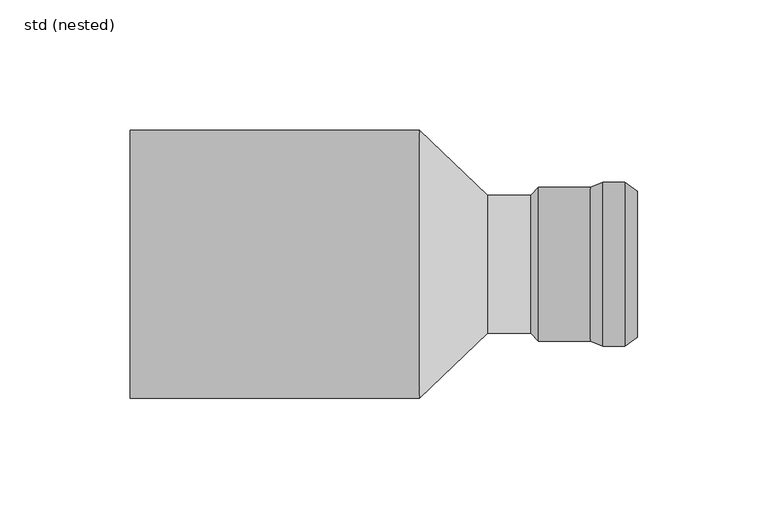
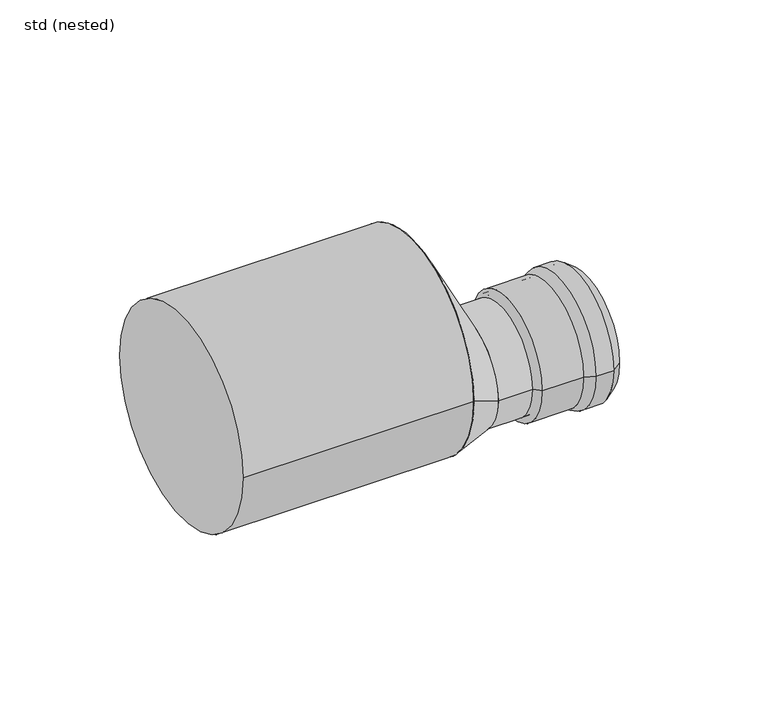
"""IFC4 building model written with IfcOpenShell, lengths in millimetres: pipe fitting geometry, ZZZ_do not use_PIF_ST_UN_GM-X transition element_ACO : std (nested)."""

from ifc_helpers import new_model, si_unit, point, frame, frame_2d, origin, origin_2d, place, context, project, spatial, polyline, circle_curve, trimmed, segment, composite_curve, outline, extrude, source, transform, mapped, element, save
from ifc_brep_helpers import plane_surface, cylinder_surface, revolved_surface, spline_surface, advanced_brep


def std_nested_7094c661(model_context):
    return source(origin(), model_context, "Body", "SolidModel", [
        advanced_brep(
        [(103.3, -31.5, -24.14), (103.3, 31.5, -24.14), (111.7, 31.5, -24.14), (111.7, -31.5, -24.14), (98.5, -29.5, -24.14), (98.5, 29.5, -24.14), (116.5, 28.0, -24.14), (116.5, -28.0, -24.14), (78.5, -29.5, -24.14), (78.5, 29.5, -24.14), (75.5, -26.5, -24.14), (75.5, 26.5, -24.14), (78.5, -26.5, -24.14), (78.5, 26.5, -24.14), (98.8, -28.0, -24.14), (98.8, 28.0, -24.14), (78.5, 28.0, -24.14), (78.5, -28.0, -24.14), (103.6, -30.0, -24.14), (103.6, 30.0, -24.14), (111.2111977, -30.0, -24.14), (111.2111977, 30.0, -24.14), (115.6162418, -26.7879887, -24.14), (115.6162418, 26.7879887, -24.14)],
        [
            (0, 1, circle_curve(frame((103.3, 0.0, -24.14), z_axis=(1.0, 0.0, 0.0), x_axis=(0.0, 1.0, 0.0)), 31.5)),
            (1, 2),
            (2, 3, circle_curve(frame((111.7, 0.0, -24.14), z_axis=(-1.0, 0.0, 0.0), x_axis=(0.0, 1.0, 0.0)), 31.5)),
            (3, 0),
            (1, 0, circle_curve(frame((103.3, 0.0, -24.14), z_axis=(1.0, 0.0, 0.0), x_axis=(0.0, 1.0, 0.0)), 31.5)),
            (3, 2, circle_curve(frame((111.7, 0.0, -24.14), z_axis=(-1.0, 0.0, 0.0), x_axis=(0.0, 1.0, 0.0)), 31.5)),
            (4, 5, circle_curve(frame((98.5, 0.0, -24.14), z_axis=(1.0, 0.0, 0.0), x_axis=(0.0, 1.0, 0.0)), 29.5)),
            (5, 1),
            (0, 4),
            (5, 4, circle_curve(frame((98.5, 0.0, -24.14), z_axis=(1.0, 0.0, 0.0), x_axis=(0.0, 1.0, 0.0)), 29.5)),
            (2, 6),
            (6, 7, circle_curve(frame((116.5, 0.0, -24.14), z_axis=(-1.0, 0.0, 0.0), x_axis=(0.0, 1.0, 0.0)), 28.0)),
            (7, 3),
            (7, 6, circle_curve(frame((116.5, 0.0, -24.14), z_axis=(-1.0, 0.0, 0.0), x_axis=(0.0, 1.0, 0.0)), 28.0)),
            (8, 9, circle_curve(frame((78.5, 0.0, -24.14), z_axis=(1.0, 0.0, 0.0), x_axis=(0.0, 1.0, 0.0)), 29.5)),
            (9, 5),
            (4, 8),
            (9, 8, circle_curve(frame((78.5, 0.0, -24.14), z_axis=(1.0, 0.0, 0.0), x_axis=(0.0, 1.0, 0.0)), 29.5)),
            (10, 11, circle_curve(frame((75.5, 0.0, -24.14), z_axis=(1.0, 0.0, 0.0), x_axis=(0.0, 1.0, 0.0)), 26.5)),
            (11, 9),
            (8, 10),
            (11, 10, circle_curve(frame((75.5, 0.0, -24.14), z_axis=(1.0, 0.0, 0.0), x_axis=(0.0, 1.0, 0.0)), 26.5)),
            (12, 13, circle_curve(frame((78.5, 0.0, -24.14), z_axis=(1.0, 0.0, 0.0), x_axis=(0.0, 1.0, 0.0)), 26.5)),
            (13, 11),
            (10, 12),
            (13, 12, circle_curve(frame((78.5, 0.0, -24.14), z_axis=(1.0, 0.0, 0.0), x_axis=(0.0, 1.0, 0.0)), 26.5)),
            (14, 15, circle_curve(frame((98.8, 0.0, -24.14), z_axis=(1.0, 0.0, 0.0), x_axis=(0.0, 1.0, 0.0)), 28.0)),
            (15, 16),
            (16, 17, circle_curve(frame((78.5, 0.0, -24.14), z_axis=(-1.0, 0.0, 0.0), x_axis=(0.0, 1.0, 0.0)), 28.0)),
            (17, 14),
            (15, 14, circle_curve(frame((98.8, 0.0, -24.14), z_axis=(1.0, 0.0, 0.0), x_axis=(0.0, 1.0, 0.0)), 28.0)),
            (17, 16, circle_curve(frame((78.5, 0.0, -24.14), z_axis=(-1.0, 0.0, 0.0), x_axis=(0.0, 1.0, 0.0)), 28.0)),
            (18, 19, circle_curve(frame((103.6, 0.0, -24.14), z_axis=(1.0, 0.0, 0.0), x_axis=(0.0, 1.0, 0.0)), 30.0)),
            (19, 15),
            (14, 18),
            (19, 18, circle_curve(frame((103.6, 0.0, -24.14), z_axis=(1.0, 0.0, 0.0), x_axis=(0.0, 1.0, 0.0)), 30.0)),
            (20, 21, circle_curve(frame((111.2111977, 0.0, -24.14), z_axis=(1.0, 0.0, 0.0), x_axis=(0.0, 1.0, 0.0)), 30.0)),
            (21, 19),
            (18, 20),
            (21, 20, circle_curve(frame((111.2111977, 0.0, -24.14), z_axis=(1.0, 0.0, 0.0), x_axis=(0.0, 1.0, 0.0)), 30.0)),
            (22, 23, circle_curve(frame((115.6162418, 0.0, -24.14), z_axis=(1.0, 0.0, 0.0), x_axis=(0.0, 1.0, 0.0)), 26.7879887)),
            (23, 21),
            (20, 22),
            (23, 22, circle_curve(frame((115.6162418, 0.0, -24.14), z_axis=(1.0, 0.0, 0.0), x_axis=(0.0, 1.0, 0.0)), 26.7879887)),
            (6, 23),
            (22, 7),
            (16, 13),
            (12, 17),
        ],
        [
            cylinder_surface(frame((113.1444117, 0.0, -24.14), z_axis=(-1.0, 0.0, 0.0), x_axis=(0.0, 1.0, 0.0)), 31.5),
            revolved_surface(polyline([(103.3, 31.5, -24.14), (98.5, 29.5, -24.14)]), (113.1444117, 0.0, -24.14), (-1.0, 0.0, 0.0)),
            revolved_surface(polyline([(116.5, 28.0, -24.14), (111.7, 31.5, -24.14)]), (113.1444117, 0.0, -24.14), (-1.0, 0.0, 0.0)),
            cylinder_surface(frame((113.1444117, 0.0, -24.14), z_axis=(-1.0, 0.0, 0.0), x_axis=(0.0, 1.0, 0.0)), 29.5),
            revolved_surface(polyline([(78.5, 29.5, -24.14), (75.5, 26.5, -24.14)]), (113.1444117, 0.0, -24.14), (-1.0, 0.0, 0.0)),
            revolved_surface(polyline([(75.5, 26.5, -24.14), (78.5, 26.5, -24.14)]), (113.1444117, 0.0, -24.14), (-1.0, 0.0, 0.0)),
            revolved_surface(polyline([(78.5, 28.0, -24.14), (98.8, 28.0, -24.14)]), (113.1444117, 0.0, -24.14), (-1.0, 0.0, 0.0)),
            revolved_surface(polyline([(98.8, 28.0, -24.14), (103.6, 30.0, -24.14)]), (113.1444117, 0.0, -24.14), (-1.0, 0.0, 0.0)),
            revolved_surface(polyline([(103.6, 30.0, -24.14), (111.2111977, 30.0, -24.14)]), (113.1444117, 0.0, -24.14), (-1.0, 0.0, 0.0)),
            revolved_surface(polyline([(111.2111977, 30.0, -24.14), (115.6162418, 26.7879887, -24.14)]), (113.1444117, 0.0, -24.14), (-1.0, 0.0, 0.0)),
            revolved_surface(polyline([(115.6162418, 26.7879887, -24.14), (116.5, 28.0, -24.14)]), (113.1444117, 0.0, -24.14), (-1.0, 0.0, 0.0)),
            plane_surface(frame((78.5, 0.0, -24.14), z_axis=(1.0, 0.0, 0.0), x_axis=(0.0, 1.0, 0.0))),
        ],
        [
            (0, [[1, 2, 3, 4]]),
            (0, [[5, -4, 6, -2]]),
            (1, [[7, 8, -1, 9]]),
            (1, [[10, -9, -5, -8]]),
            (2, [[-3, 11, 12, 13]]),
            (2, [[-6, -13, 14, -11]]),
            (3, [[15, 16, -7, 17]]),
            (3, [[18, -17, -10, -16]]),
            (4, [[19, 20, -15, 21]]),
            (4, [[22, -21, -18, -20]]),
            (5, [[23, 24, -19, 25]]),
            (5, [[26, -25, -22, -24]]),
            (6, [[27, 28, 29, 30]]),
            (6, [[31, -30, 32, -28]]),
            (7, [[33, 34, -27, 35]]),
            (7, [[36, -35, -31, -34]]),
            (8, [[37, 38, -33, 39]]),
            (8, [[40, -39, -36, -38]]),
            (9, [[41, 42, -37, 43]]),
            (9, [[44, -43, -40, -42]]),
            (10, [[-12, 45, -41, 46]]),
            (10, [[-14, -46, -44, -45]]),
            (11, [[-29, 47, -23, 48]]),
            (11, [[-32, -48, -26, -47]]),
        ],
    ),
        advanced_brep(
        [(58.875, -26.5, -24.14), (58.875, 26.5, -24.14), (32.7083333, -51.5, 0.0), (32.7083333, 51.5, 0.0)],
        [
            (0, 1, circle_curve(frame((58.875, 0.0, -24.14), z_axis=(1.0, 0.0, 0.0), x_axis=(0.0, 1.0, 0.0)), 26.5)),
            (1, 0, circle_curve(frame((58.875, 0.0, -24.14), z_axis=(1.0, 0.0, 0.0), x_axis=(0.0, 1.0, 0.0)), 26.5)),
            (2, 3, circle_curve(frame((32.7083333, 0.0, 0.0), z_axis=(-1.0, 0.0, 0.0), x_axis=(0.0, 1.0, 0.0)), 51.5)),
            (3, 2, circle_curve(frame((32.7083333, 0.0, 0.0), z_axis=(-1.0, 0.0, 0.0), x_axis=(0.0, 1.0, 0.0)), 51.5)),
            (3, 1),
            (0, 2),
        ],
        [
            plane_surface(frame((58.875, 0.0, -24.14), z_axis=(1.0, 0.0, 0.0), x_axis=(0.0, 0.0, -1.0))),
            plane_surface(frame((32.7083333, 0.0, 0.0), z_axis=(-1.0, 0.0, 0.0), x_axis=(0.0, 0.0, -1.0))),
            spline_surface(2, 1, [[(32.7083333, -51.5, 0.0), (58.875, -26.5, -24.14)], [(32.7083333, -51.5, -51.5), (58.875, -26.5, -50.64)], [(32.7083333, 0.0, -51.5), (58.875, 0.0, -50.64)], [(32.7083333, 51.5, -51.5), (58.875, 26.5, -50.64)], [(32.7083333, 51.5, 0.0), (58.875, 26.5, -24.14)]], [3, 2, 3], [2, 2], [0.0, 1.0, 2.0], [0.0, 1.0], weights=[[1.0, 1.0], [0.7071067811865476, 0.7071067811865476], [1.0, 1.0], [0.7071067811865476, 0.7071067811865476], [1.0, 1.0]]),
            spline_surface(2, 1, [[(32.7083333, 51.5, 0.0), (58.875, 26.5, -24.14)], [(32.7083333, 51.5, 51.5), (58.875, 26.5, 2.3599999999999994)], [(32.7083333, 0.0, 51.5), (58.875, 0.0, 2.3599999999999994)], [(32.7083333, -51.5, 51.5), (58.875, -26.5, 2.3599999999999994)], [(32.7083333, -51.5, 0.0), (58.875, -26.5, -24.14)]], [3, 2, 3], [2, 2], [0.0, 1.0, 2.0], [0.0, 1.0], weights=[[1.0, 1.0], [0.7071067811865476, 0.7071067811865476], [1.0, 1.0], [0.7071067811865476, 0.7071067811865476], [1.0, 1.0]]),
        ],
        [
            (0, [[1, 2]]),
            (1, [[3, 4]]),
            (2, [[-4, 5, -1, 6]]),
            (3, [[-3, -6, -2, -5]]),
        ],
    ),
        extrude(outline(composite_curve([segment(trimmed(circle_curve(frame_2d((0.0, -24.14)), 26.5), [point((26.5, -24.14))], [point((-26.5, -24.14))], False, "CARTESIAN"), True, "CONTINUOUS"), segment(trimmed(circle_curve(frame_2d((0.0, -24.14)), 26.5), [point((-26.5, -24.14))], [point((26.5, -24.14))], False, "CARTESIAN"), True, "CONTINUOUS")], self_intersect=False)), frame((58.875, 0.0, 0.0), z_axis=(1.0, 0.0, 0.0), x_axis=(0.0, 1.0, 0.0)), (0.0, 0.0, 1.0), 19.625),
        extrude(outline(composite_curve([segment(trimmed(circle_curve(origin_2d(), 51.5), [point((-51.5, 0.0))], [point((51.5, 0.0))], False, "CARTESIAN"), True, "CONTINUOUS"), segment(trimmed(circle_curve(origin_2d(), 51.5), [point((51.5, 0.0))], [point((-51.5, 0.0))], False, "CARTESIAN"), True, "CONTINUOUS")], self_intersect=False)), frame((-78.5, 0.0, 0.0), z_axis=(1.0, 0.0, 0.0), x_axis=(0.0, 1.0, 0.0)), (0.0, 0.0, 1.0), 111.2083333),
    ])


if __name__ == "__main__":
    model = new_model("IFC4")
    model_context = context("Model", 3, world=origin())
    ifc_project = project(units=[si_unit("LENGTHUNIT", "METRE", prefix="MILLI")], contexts=[model_context])
    site = spatial("IfcSite", under=ifc_project)
    building = spatial("IfcBuilding", under=site)
    placement = place(None, origin())
    std_nested_shape = std_nested_7094c661(model_context)
    element("IfcPipeFitting", 1, ObjectType="ZZZ_do not use_PIF_ST_UN_GM-X transition element_ACO : std (nested)", at=placement, inside=building, context=model_context, shape_type="MappedRepresentation", body=[
        mapped(std_nested_shape, transform((0.0, 0.0, 0.0), x_axis=(1.0, 0.0, 0.0), y_axis=(0.0, 1.0, 0.0), z_axis=(0.0, 0.0, 1.0))),
    ])
    save(model, "model.ifc")
